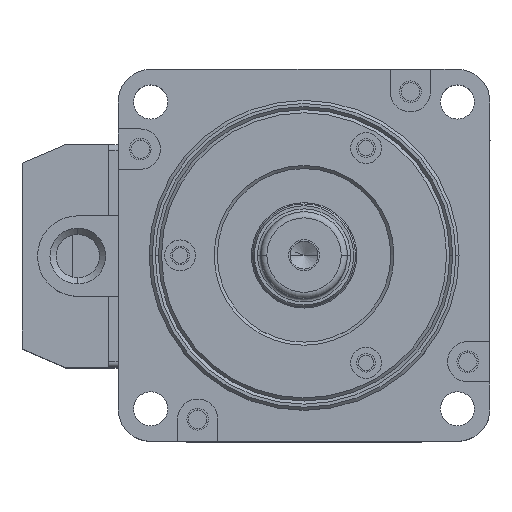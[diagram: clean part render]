
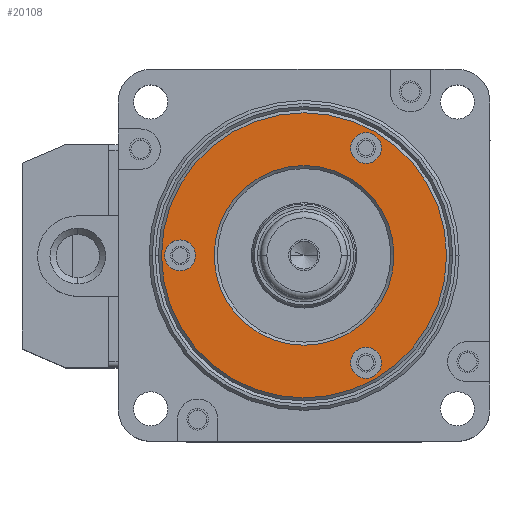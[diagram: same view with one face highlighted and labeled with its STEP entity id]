
A CAD part, top view. The second image highlights one B-rep face of the part: STEP entity #20108.
In plain terms, the highlighted planar face has unit normal (0, 0, 1).
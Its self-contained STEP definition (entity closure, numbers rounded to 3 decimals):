
#19589=CARTESIAN_POINT('',(0.,-20.,4.5));
#19590=DIRECTION('',(0.,0.,1.));
#19591=DIRECTION('',(-1.,0.,0.));
#19592=AXIS2_PLACEMENT_3D('',#19589,#19590,#19591);
#19594=CARTESIAN_POINT('',(0.,-20.,4.5));
#19595=DIRECTION('',(0.,0.,1.));
#19596=DIRECTION('',(1.,0.,0.));
#19597=AXIS2_PLACEMENT_3D('',#19594,#19595,#19596);
#19599=CARTESIAN_POINT('',(17.321,10.,4.5));
#19600=DIRECTION('',(0.,0.,1.));
#19601=DIRECTION('',(0.5,-0.866,0.));
#19602=AXIS2_PLACEMENT_3D('',#19599,#19600,#19601);
#19604=CARTESIAN_POINT('',(17.321,10.,4.5));
#19605=DIRECTION('',(0.,0.,1.));
#19606=DIRECTION('',(-0.5,0.866,0.));
#19607=AXIS2_PLACEMENT_3D('',#19604,#19605,#19606);
#19609=CARTESIAN_POINT('',(-17.321,10.,4.5));
#19610=DIRECTION('',(0.,0.,1.));
#19611=DIRECTION('',(0.5,0.866,0.));
#19612=AXIS2_PLACEMENT_3D('',#19609,#19610,#19611);
#19614=CARTESIAN_POINT('',(-17.321,10.,4.5));
#19615=DIRECTION('',(0.,0.,1.));
#19616=DIRECTION('',(-0.5,-0.866,0.));
#19617=AXIS2_PLACEMENT_3D('',#19614,#19615,#19616);
#19619=CARTESIAN_POINT('',(0.,0.,4.5));
#19620=DIRECTION('',(0.,0.,1.));
#19621=DIRECTION('',(-1.,0.,0.));
#19622=AXIS2_PLACEMENT_3D('',#19619,#19620,#19621);
#19624=CARTESIAN_POINT('',(0.,0.,
4.5));
#19625=DIRECTION('',(0.,0.,1.));
#19626=DIRECTION('',(1.,0.,0.));
#19627=AXIS2_PLACEMENT_3D('',#19624,#19625,#19626);
#19629=CARTESIAN_POINT('',(0.,0.,
4.5));
#19630=DIRECTION('',(0.,0.,-1.));
#19631=DIRECTION('',(0.,1.,0.));
#19632=AXIS2_PLACEMENT_3D('',#19629,#19630,#19631);
#19634=CARTESIAN_POINT('',(0.,0.,4.5));
#19635=DIRECTION('',(0.,0.,-1.));
#19636=DIRECTION('',(0.,-1.,0.));
#19637=AXIS2_PLACEMENT_3D('',#19634,#19635,#19636);
#19989=CARTESIAN_POINT('',(-2.5,-20.,4.5));
#19990=CARTESIAN_POINT('',(2.5,-20.,4.5));
#19991=VERTEX_POINT('',#19989);
#19992=VERTEX_POINT('',#19990);
#20005=CARTESIAN_POINT('',(18.571,7.835,4.5));
#20006=CARTESIAN_POINT('',(16.071,12.165,4.5));
#20007=VERTEX_POINT('',#20005);
#20008=VERTEX_POINT('',#20006);
#20013=CARTESIAN_POINT('',(-16.071,12.165,4.5));
#20014=CARTESIAN_POINT('',(-18.571,7.835,4.5));
#20015=VERTEX_POINT('',#20013);
#20016=VERTEX_POINT('',#20014);
#20041=CARTESIAN_POINT('',(-23.,0.,4.5));
#20042=CARTESIAN_POINT('',(23.,0.,4.5));
#20043=VERTEX_POINT('',#20041);
#20044=VERTEX_POINT('',#20042);
#20049=CARTESIAN_POINT('',(0.,14.5,4.5));
#20050=CARTESIAN_POINT('',(0.,-14.5,4.5));
#20051=VERTEX_POINT('',#20049);
#20052=VERTEX_POINT('',#20050);
#20073=CARTESIAN_POINT('',(0.,0.,4.5));
#20074=DIRECTION('',(0.,0.,1.));
#20075=DIRECTION('',(1.,0.,0.));
#20076=AXIS2_PLACEMENT_3D('',#20073,#20074,#20075);
#20077=PLANE('',#20076);
#20079=ORIENTED_EDGE('',*,*,#20078,.F.);
#20081=ORIENTED_EDGE('',*,*,#20080,.F.);
#20082=EDGE_LOOP('',(#20079,#20081));
#20083=FACE_OUTER_BOUND('',#20082,.F.);
#20085=ORIENTED_EDGE('',*,*,#20084,.T.);
#20087=ORIENTED_EDGE('',*,*,#20086,.T.);
#20088=EDGE_LOOP('',(#20085,#20087));
#20089=FACE_BOUND('',#20088,.F.);
#20091=ORIENTED_EDGE('',*,*,#20090,.T.);
#20093=ORIENTED_EDGE('',*,*,#20092,.T.);
#20094=EDGE_LOOP('',(#20091,#20093));
#20095=FACE_BOUND('',#20094,.F.);
#20097=ORIENTED_EDGE('',*,*,#20096,.T.);
#20099=ORIENTED_EDGE('',*,*,#20098,.T.);
#20100=EDGE_LOOP('',(#20097,#20099));
#20101=FACE_BOUND('',#20100,.F.);
#20103=ORIENTED_EDGE('',*,*,#20102,.F.);
#20105=ORIENTED_EDGE('',*,*,#20104,.F.);
#20106=EDGE_LOOP('',(#20103,#20105));
#20107=FACE_BOUND('',#20106,.F.);
#19593=CIRCLE('',#19592,2.5);
#19598=CIRCLE('',#19597,2.5);
#19603=CIRCLE('',#19602,2.5);
#19608=CIRCLE('',#19607,2.5);
#19613=CIRCLE('',#19612,2.5);
#19618=CIRCLE('',#19617,2.5);
#19623=CIRCLE('',#19622,23.);
#19628=CIRCLE('',#19627,23.);
#19633=CIRCLE('',#19632,14.5);
#19638=CIRCLE('',#19637,14.5);
#20078=EDGE_CURVE('',#20043,#20044,#19623,.T.);
#20080=EDGE_CURVE('',#20044,#20043,#19628,.T.);
#20084=EDGE_CURVE('',#20007,#20008,#19603,.T.);
#20086=EDGE_CURVE('',#20008,#20007,#19608,.T.);
#20090=EDGE_CURVE('',#20015,#20016,#19613,.T.);
#20092=EDGE_CURVE('',#20016,#20015,#19618,.T.);
#20096=EDGE_CURVE('',#19991,#19992,#19593,.T.);
#20098=EDGE_CURVE('',#19992,#19991,#19598,.T.);
#20102=EDGE_CURVE('',#20051,#20052,#19633,.T.);
#20104=EDGE_CURVE('',#20052,#20051,#19638,.T.);
#20108=ADVANCED_FACE('',(#20083,#20089,#20095,#20101,#20107),#20077,.T.);
